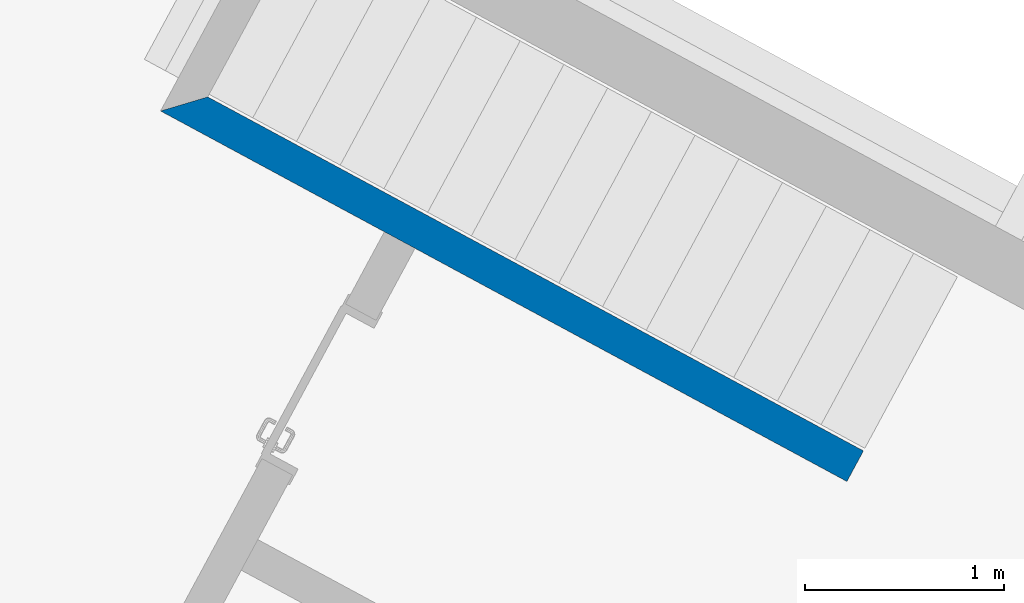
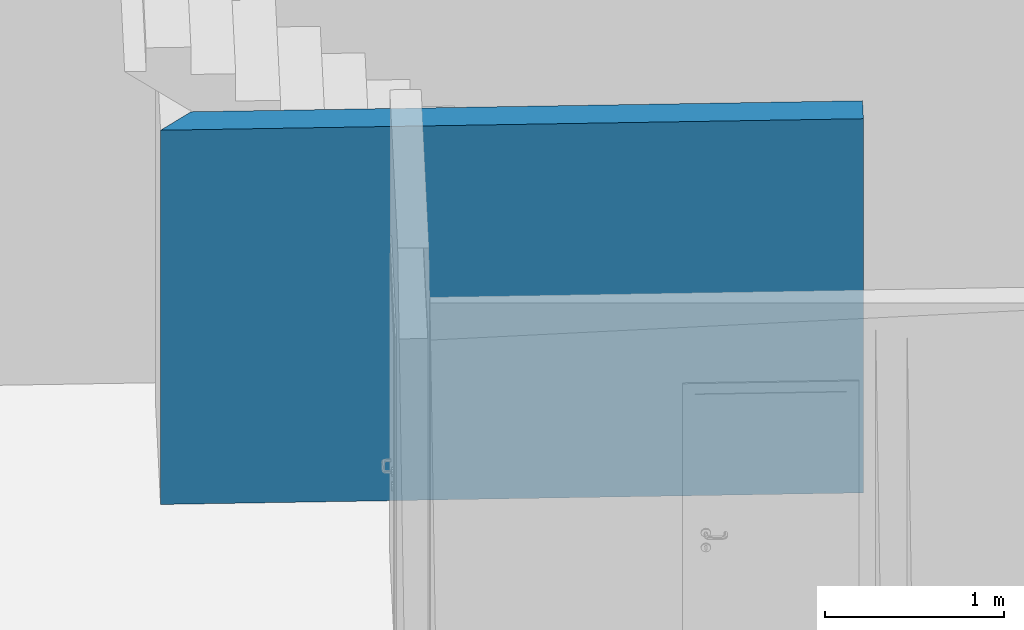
# One storey, part 3 of 8: 1 wall.
"""IFC2X3 building model written with IfcOpenShell, lengths in metres."""

import ifcopenshell
import ifcopenshell.guid

model = None  # the IFC model being written
_history = None  # IfcOwnerHistory: only IFC2X3 demands one
_inside = {}  # id of a spatial element -> (the spatial element, [elements in it])
_under = {}  # id of a project, library or spatial element -> (it, [spatial elements below it])
_declared = {}  # id of a project -> (the project, [libraries it declares])
_typed = {}  # id of a type object -> (the type object, [elements of that type])
_made_of = {}  # id of a material, layer set ... -> (it, [elements and type objects made of it])


def new_model(schema):
    """Start an empty IFC model of exactly this schema.

    Asked for "IFC4X3", IfcOpenShell would pick the latest addendum, in which some entities
    have other attributes; the version numbers below select the first issue.
    IFC2X3 requires an IfcOwnerHistory on every rooted entity: one is made here for all.
    """
    global model, _history
    if schema == "IFC4X3":
        model = ifcopenshell.file(schema_version=(4, 3, 0, 0))
    else:
        model = ifcopenshell.file(schema=schema)
    _inside.clear()
    _under.clear()
    _declared.clear()
    _typed.clear()
    _made_of.clear()
    _history = None
    if model.schema == "IFC2X3":
        org = make("IfcOrganization", Name="unknown")
        user = make(
            "IfcPersonAndOrganization",
            ThePerson=make("IfcPerson", FamilyName="unknown"),
            TheOrganization=org,
        )
        app = make(
            "IfcApplication",
            ApplicationDeveloper=org,
            Version="unknown",
            ApplicationFullName="unknown",
            ApplicationIdentifier="unknown",
        )
        _history = make(
            "IfcOwnerHistory",
            OwningUser=user,
            OwningApplication=app,
            ChangeAction="ADDED",
            CreationDate=0,
        )
    return model


def make(cls, **values):
    """One entity of the class cls with the attributes given. An attribute that is None is left unset."""
    return model.create_entity(
        cls, **{name: value for name, value in values.items() if value is not None}
    )


def entity(cls, *values):
    """Any entity or typed value of the class cls, its attributes in the order of the schema. None: left unset."""
    e = model.create_entity(cls)
    for i, value in enumerate(values):
        if value is not None:
            e[i] = value
    return e


def rooted(cls, **values):
    """An entity with a GlobalId (a new one), such as an element, a storey or a relation."""
    return make(cls, GlobalId=ifcopenshell.guid.new(), OwnerHistory=_history, **values)


def si_unit(unit_type, name, prefix=None):
    """IfcSIUnit, for example si_unit("LENGTHUNIT", "METRE", prefix="MILLI")."""
    return make("IfcSIUnit", UnitType=unit_type, Prefix=prefix, Name=name)


def converted_unit(unit_type, name, factor, base, dimensions=None, offset=None):
    """IfcConversionBasedUnit, such as the inch: factor (a typed value) times the base unit."""
    return make(
        "IfcConversionBasedUnit"
        if offset is None
        else "IfcConversionBasedUnitWithOffset",
        ConversionOffset=offset,
        Dimensions=None
        if dimensions is None
        else entity("IfcDimensionalExponents", *dimensions),
        UnitType=unit_type,
        Name=name,
        ConversionFactor=make(
            "IfcMeasureWithUnit", ValueComponent=factor, UnitComponent=base
        ),
    )


def derived_unit(unit_type, elements):
    """IfcDerivedUnit: a product of units, each with its exponent."""
    return make(
        "IfcDerivedUnit",
        Elements=[
            make("IfcDerivedUnitElement", Unit=unit, Exponent=power)
            for unit, power in elements
        ],
        UnitType=unit_type,
    )


def money_unit(currency):
    """IfcMonetaryUnit."""
    return make("IfcMonetaryUnit", Currency=currency)


def assignment(units):
    """IfcUnitAssignment: the units of a project."""
    return None if units is None else make("IfcUnitAssignment", Units=units)


def point(xyz):
    """IfcCartesianPoint."""
    return None if xyz is None else make("IfcCartesianPoint", Coordinates=xyz)


def direction(xyz):
    """IfcDirection."""
    return None if xyz is None else make("IfcDirection", DirectionRatios=xyz)


def frame(location, z_axis=None, x_axis=None):
    """IfcAxis2Placement3D, a coordinate frame: its origin and axes. An axis left out is left unset."""
    return make(
        "IfcAxis2Placement3D",
        Location=point(location),
        Axis=direction(z_axis),
        RefDirection=direction(x_axis),
    )


def origin_with_axes():
    """The frame at (0, 0, 0) with the z axis (0, 0, 1) and the x axis (1, 0, 0) written out."""
    return frame((0.0, 0.0, 0.0), z_axis=(0.0, 0.0, 1.0), x_axis=(1.0, 0.0, 0.0))


def place(relative_to, where):
    """IfcLocalPlacement: puts the frame where relative to a parent placement (None: the world)."""
    return make(
        "IfcLocalPlacement", PlacementRelTo=relative_to, RelativePlacement=where
    )


def context(
    kind, dimensions, precision=None, world=None, true_north=None, identifier=None
):
    """IfcGeometricRepresentationContext, for example the 3D "Model" context."""
    return make(
        "IfcGeometricRepresentationContext",
        ContextIdentifier=identifier,
        ContextType=kind,
        CoordinateSpaceDimension=dimensions,
        Precision=precision,
        WorldCoordinateSystem=world,
        TrueNorth=true_north,
    )


def subcontext(parent, identifier, kind, view, scale=None):
    """IfcGeometricRepresentationSubContext, for example "Body" below "Model"."""
    return make(
        "IfcGeometricRepresentationSubContext",
        ContextIdentifier=identifier,
        ContextType=kind,
        ParentContext=parent,
        TargetScale=scale,
        TargetView=view,
    )


def project(units=None, contexts=None):
    """IfcProject with its units and contexts."""
    return rooted(
        "IfcProject",
        Name="project",
        RepresentationContexts=contexts,
        UnitsInContext=assignment(units),
    )


def spatial(cls, under=None, at=None, **own):
    """A site, building, storey or space (cls), placed at a placement, below another one or the project."""
    s = rooted(cls, ObjectPlacement=at, **own)
    if under is not None:
        _under.setdefault(under.id(), (under, []))[1].append(s)
    return s


def polyline(points):
    """IfcPolyline through the points."""
    return make("IfcPolyline", Points=[point(p) for p in points])


def outline(outer, holes=None, kind="AREA"):
    """IfcArbitraryClosedProfileDef: a profile drawn as a closed curve; with holes, ...WithVoids."""
    if holes is None:
        return make("IfcArbitraryClosedProfileDef", ProfileType=kind, OuterCurve=outer)
    return make(
        "IfcArbitraryProfileDefWithVoids",
        ProfileType=kind,
        OuterCurve=outer,
        InnerCurves=holes,
    )


def extrude(swept, where, along, depth):
    """IfcExtrudedAreaSolid: the profile swept, set in the frame where, extruded along a direction by depth."""
    return make(
        "IfcExtrudedAreaSolid",
        SweptArea=swept,
        Position=where,
        ExtrudedDirection=direction(along),
        Depth=depth,
    )


def shape(context_of_items, identifier, shape_type, items):
    """IfcShapeRepresentation: the items that make up one representation, for example the "Body"."""
    return make(
        "IfcShapeRepresentation",
        ContextOfItems=context_of_items,
        RepresentationIdentifier=identifier,
        RepresentationType=shape_type,
        Items=items,
    )


def material(Name=None, Category=None):
    """IfcMaterial."""
    return make("IfcMaterial", Name=Name, Category=Category)


def layer(
    of_material, thickness, ventilated=None, Name=None, Category=None, Priority=None
):
    """IfcMaterialLayer: one layer of a wall or slab, of a material (None: an air gap)."""
    return make(
        "IfcMaterialLayer",
        Material=of_material,
        LayerThickness=thickness,
        IsVentilated=ventilated,
        Name=Name,
        Category=Category,
        Priority=Priority,
    )


def layer_set(layers, Name=None):
    """IfcMaterialLayerSet."""
    return make("IfcMaterialLayerSet", MaterialLayers=layers, LayerSetName=Name)


def layer_usage(for_layer_set, set_direction, sense, offset, extent=None):
    """IfcMaterialLayerSetUsage: how a layer set lies in its element."""
    return make(
        "IfcMaterialLayerSetUsage",
        ForLayerSet=for_layer_set,
        LayerSetDirection=set_direction,
        DirectionSense=sense,
        OffsetFromReferenceLine=offset,
        ReferenceExtent=extent,
    )


def made_of(thing, what):
    """Note that an element or type object is made of a material, layer set ...; save() writes the relation."""
    if what is not None:
        _made_of.setdefault(what.id(), (what, []))[1].append(thing)
    return thing


def type_object(cls, material=None, **own):
    """A type object (cls), such as IfcWallType, which elements share."""
    return made_of(rooted(cls, **own), material)


def element(
    cls,
    number,
    at=None,
    inside=None,
    cuts=None,
    type_object=None,
    material=None,
    context=None,
    identifier="Body",
    shape_type=None,
    held_by="IfcProductDefinitionShape",
    body=None,
    shapes=None,
    **own,
):
    """One element of the class cls, such as IfcWall. Its Tag is "e" and its number.

    at: its placement. inside: the storey or other place that contains it. cuts: it is an
    opening in that element (IfcRelVoidsElement). A single representation is given by context,
    identifier, shape_type and body (its items); several are given by shapes. held_by: the class
    of the entity that holds the representations. save() writes the other relations.
    """
    e = rooted(cls, Tag="e%d" % number, ObjectPlacement=at, **own)
    if body is not None:
        shapes = [shape(context, identifier, shape_type, body)]
    if shapes is not None:
        e.Representation = make(held_by, Representations=shapes)
    if inside is not None:
        _inside.setdefault(inside.id(), (inside, []))[1].append(e)
    if cuts is not None:
        rooted(
            "IfcRelVoidsElement", RelatingBuildingElement=cuts, RelatedOpeningElement=e
        )
    if type_object is not None:
        _typed.setdefault(type_object.id(), (type_object, []))[1].append(e)
    return made_of(e, material)


def aggregate(whole, parts):
    """IfcRelAggregates: a whole, such as a stair, and the parts it consists of."""
    return rooted("IfcRelAggregates", RelatingObject=whole, RelatedObjects=parts)


def save(model, path):
    """Write the relations noted so far, then the file.

    IfcRelAggregates (storeys below a building ...), IfcRelContainedInSpatialStructure (elements
    in a storey), IfcRelDefinesByType, IfcRelAssociatesMaterial and IfcRelDeclares: one each for
    every whole, place, type object, material and project.
    """
    for whole, parts in _under.values():
        aggregate(whole, parts)
    for where, things in _inside.values():
        rooted(
            "IfcRelContainedInSpatialStructure",
            RelatedElements=things,
            RelatingStructure=where,
        )
    for kind, things in _typed.values():
        rooted("IfcRelDefinesByType", RelatedObjects=things, RelatingType=kind)
    for what, things in _made_of.values():
        rooted("IfcRelAssociatesMaterial", RelatedObjects=things, RelatingMaterial=what)
    for by, libraries in _declared.values():
        rooted("IfcRelDeclares", RelatingContext=by, RelatedDefinitions=libraries)
    model.write(path)


model = new_model("IFC2X3")

# Units and contexts
model_context = context("Model", 3, precision=1e-05, world=origin_with_axes(), true_north=direction((0.0, 1.0)))
body_context = subcontext(model_context, "Body", "Model", "MODEL_VIEW")
ifc_project = project(units=[si_unit("LENGTHUNIT", "METRE"), si_unit("AREAUNIT", "SQUARE_METRE"), si_unit("VOLUMEUNIT", "CUBIC_METRE"), converted_unit("PLANEANGLEUNIT", "DEGREE", entity("IfcPlaneAngleMeasure", 0.0174532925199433), si_unit("PLANEANGLEUNIT", "RADIAN"), dimensions=[0, 0, 0, 0, 0, 0, 0]), money_unit("EUR"), converted_unit("TIMEUNIT", "Year", entity("IfcTimeMeasure", 31556926.0), si_unit("TIMEUNIT", "SECOND"), dimensions=[0, 0, 1, 0, 0, 0, 0]), si_unit("MASSUNIT", "GRAM", prefix="KILO"), si_unit("THERMODYNAMICTEMPERATUREUNIT", "DEGREE_CELSIUS"), si_unit("LUMINOUSINTENSITYUNIT", "LUMEN"), si_unit("ENERGYUNIT", "JOULE", prefix="MEGA"), derived_unit("THERMALCONDUCTANCEUNIT", [(si_unit("POWERUNIT", "WATT"), 1), (si_unit("LENGTHUNIT", "METRE"), -1), (si_unit("THERMODYNAMICTEMPERATUREUNIT", "KELVIN"), -1)]), derived_unit("SPECIFICHEATCAPACITYUNIT", [(si_unit("ENERGYUNIT", "JOULE"), 1), (si_unit("MASSUNIT", "GRAM", prefix="KILO"), -1), (si_unit("THERMODYNAMICTEMPERATUREUNIT", "KELVIN"), -1)]), derived_unit("MASSDENSITYUNIT", [(si_unit("MASSUNIT", "GRAM", prefix="KILO"), 1), (si_unit("VOLUMEUNIT", "CUBIC_METRE"), -1)])], contexts=[model_context])

# Site, building, storey
site_placement = place(None, frame((-3.949935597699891, 1.740105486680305, 0.0), z_axis=(0.0, 0.0, 1.0), x_axis=(0.8799804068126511, -0.475009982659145, 0.0)))
site = spatial("IfcSite", under=ifc_project, at=site_placement, Name="Gelände", CompositionType="ELEMENT")
building_placement = place(site_placement, origin_with_axes())
building = spatial("IfcBuilding", under=site, at=building_placement, Name="Gebäude", CompositionType="ELEMENT")
storey_placement = place(building_placement, frame((0.0, 0.0, -2.98), z_axis=(0.0, 0.0, 1.0), x_axis=(1.0, 0.0, 0.0)))
storey = spatial("IfcBuildingStorey", under=building, at=storey_placement, Name="Kellergeschoss", CompositionType="ELEMENT", Elevation=-2.98)

# Wall
ifc_material = material(Name="_SIWH - MW Kalksandstein")
ifc_layer = layer(ifc_material, 0.175, ventilated="UNKNOWN")
ifc_layer_set = layer_set([ifc_layer], Name="_SIWH - WI | KS 17,5 | 17,5cm")
ifc_layer_usage = layer_usage(ifc_layer_set, "AXIS2", "NEGATIVE", 0.175)
wall_type = type_object("IfcWallType", Name="_SIWH - WI | KS 17,5 | 17,5cm 175", PredefinedType="NOTDEFINED")
wall_placement = place(storey_placement, frame((10.34740135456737, 17.89030078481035, 0.0), z_axis=(0.0, 0.0, 1.0), x_axis=(-0.9999999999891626, -4.655640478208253e-06, 0.0)))
element("IfcWallStandardCase", 1, at=wall_placement, inside=storey, type_object=wall_type, material=ifc_layer_usage, Name="I-Wand031", ObjectType="NOTDEFINED", context=body_context, shape_type="SweptSolid", body=[
    extrude(outline(polyline([(0.0, 0.0), (3.749999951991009, 0.0), (3.924999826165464, 0.1750000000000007), (0.0, 0.1750000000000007), (0.0, 0.0)])), origin_with_axes(), (0.0, 0.0, 1.0), 2.55),
])

save(model, "model.ifc")
